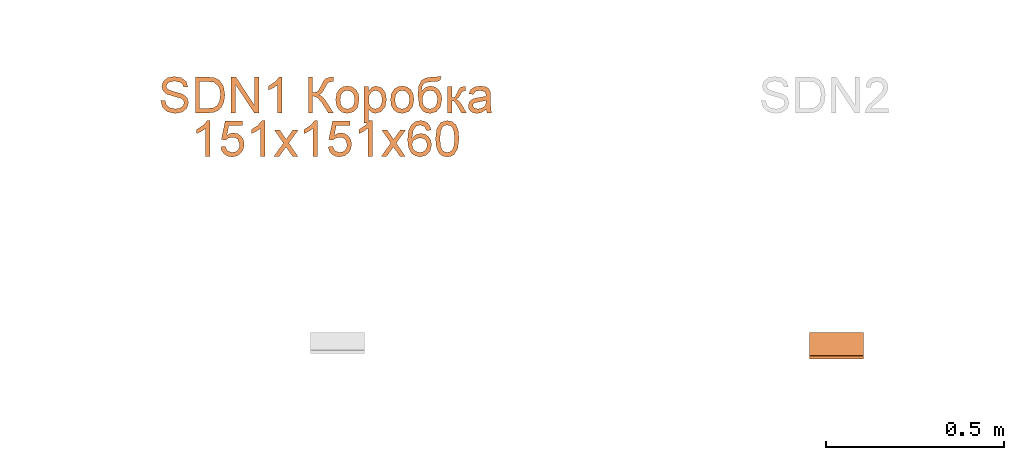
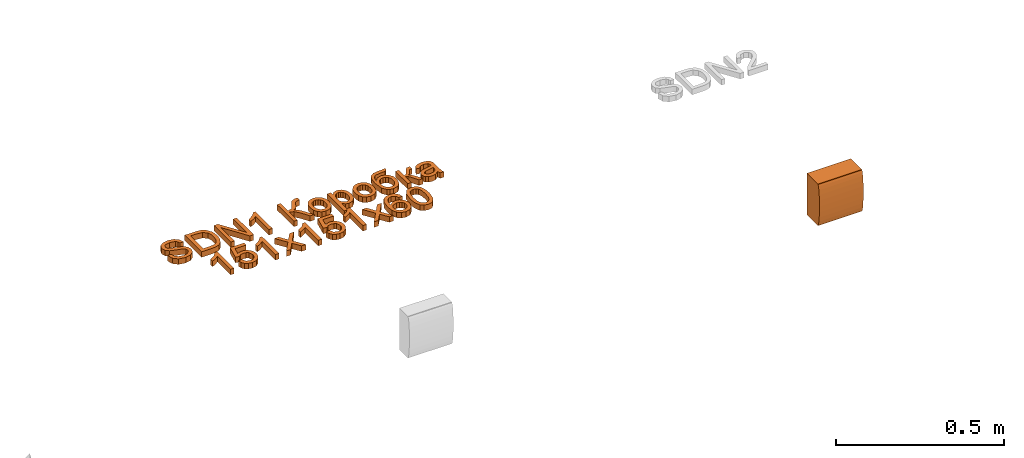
# One storey, part 34 of 71: 2 proxies.
"""IFC2X3 building model written with IfcOpenShell, lengths in millimetres."""

from ifc_helpers import new_model, entity, si_unit, converted_unit, derived_unit, direction, frame, origin, place, context, subcontext, project, spatial, polyline, outline, extrude, source, transform, mapped, material, type_object, type_shapes, element, save


model = new_model("IFC2X3")

# Units and contexts
model_context = context("Model", 3, precision=0.01, world=origin(), true_north=direction((6.12303176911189e-17, 1.0)))
body_context = subcontext(model_context, "Body", "Model", "MODEL_VIEW")
ifc_project = project(units=[si_unit("LENGTHUNIT", "METRE", prefix="MILLI"), si_unit("AREAUNIT", "SQUARE_METRE"), si_unit("VOLUMEUNIT", "CUBIC_METRE"), converted_unit("PLANEANGLEUNIT", "DEGREE", entity("IfcRatioMeasure", 0.0174532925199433), si_unit("PLANEANGLEUNIT", "RADIAN"), dimensions=[0, 0, 0, 0, 0, 0, 0]), si_unit("MASSUNIT", "GRAM", prefix="KILO"), derived_unit("MASSDENSITYUNIT", [(si_unit("MASSUNIT", "GRAM", prefix="KILO"), 1), (si_unit("LENGTHUNIT", "METRE"), -3)]), si_unit("TIMEUNIT", "SECOND"), si_unit("FREQUENCYUNIT", "HERTZ"), si_unit("THERMODYNAMICTEMPERATUREUNIT", "DEGREE_CELSIUS"), derived_unit("THERMALTRANSMITTANCEUNIT", [(si_unit("MASSUNIT", "GRAM", prefix="KILO"), 1), (si_unit("THERMODYNAMICTEMPERATUREUNIT", "KELVIN"), -1), (si_unit("TIMEUNIT", "SECOND"), -3)]), derived_unit("VOLUMETRICFLOWRATEUNIT", [(si_unit("LENGTHUNIT", "METRE"), 3), (si_unit("TIMEUNIT", "SECOND"), -1)]), si_unit("ELECTRICCURRENTUNIT", "AMPERE"), si_unit("ELECTRICVOLTAGEUNIT", "VOLT"), si_unit("POWERUNIT", "WATT"), si_unit("FORCEUNIT", "NEWTON", prefix="KILO"), si_unit("ILLUMINANCEUNIT", "LUX"), si_unit("LUMINOUSFLUXUNIT", "LUMEN"), si_unit("LUMINOUSINTENSITYUNIT", "CANDELA"), derived_unit("USERDEFINED", [(si_unit("MASSUNIT", "GRAM", prefix="KILO"), -1), (si_unit("LENGTHUNIT", "METRE"), -2), (si_unit("TIMEUNIT", "SECOND"), 3), (si_unit("LUMINOUSFLUXUNIT", "LUMEN"), 1)]), derived_unit("LINEARVELOCITYUNIT", [(si_unit("LENGTHUNIT", "METRE"), 1), (si_unit("TIMEUNIT", "SECOND"), -1)]), si_unit("PRESSUREUNIT", "PASCAL"), derived_unit("USERDEFINED", [(si_unit("LENGTHUNIT", "METRE"), -2), (si_unit("MASSUNIT", "GRAM", prefix="KILO"), 1), (si_unit("TIMEUNIT", "SECOND"), -2)])], contexts=[model_context])

# Site, building, storey
site_placement = place(None, origin())
site = spatial("IfcSite", under=ifc_project, at=site_placement, Name="Default", CompositionType="ELEMENT")
building_placement = place(site_placement, origin())
building = spatial("IfcBuilding", under=site, at=building_placement, Name="Наименование здания", CompositionType="ELEMENT")
storey_placement = place(building_placement, origin())
storey = spatial("IfcBuildingStorey", under=building, at=storey_placement, Name="Этаж 01", CompositionType="ELEMENT", Elevation=0.0)

# Proxies
ifc_material = material(Name="DKC_Пластик_Белый")
building_element_proxy_type = type_object("IfcBuildingElementProxyType", Name="SDN2", PredefinedType="NOTDEFINED", material=ifc_material)
shared_shape = source(origin(), body_context, "Body", "SweptSolid", [
    extrude(outline(polyline([(-32.3690628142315, -68.3253380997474), (-30.7516838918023, -68.3253380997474), (-25.4720067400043, -64.2957019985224), (-17.8448663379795, -55.2104980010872), (-8.48816824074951, -41.8057553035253), (1.84006351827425, -25.1674464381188), (12.3030970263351, -6.64350823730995), (22.0532795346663, 12.265359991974), (30.3007092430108, 30.0272742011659), (36.3772284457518, 45.2032697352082), (39.7905536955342, 56.5638776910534), (40.2641576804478, 63.1887291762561), (39.3770507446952, 64.5411181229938), (-17.8171191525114, 95.4252067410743), (-89.563232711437, -37.4412494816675), (-32.3690628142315, -68.3253380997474)])), frame((-75.5, -61.0177827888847, 0.0), z_axis=(1.0, 0.0, 0.0), x_axis=(0.0, -0.879910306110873, -0.475139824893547)), (0.0, 0.0, 1.0), 151.0),
])
type_shapes(building_element_proxy_type, [shared_shape])
proxy_1_placement = place(storey_placement, frame((7681.62924654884, -18646.77075177, 0.0)))
element("IfcBuildingElementProxy", 1, at=proxy_1_placement, inside=storey, type_object=building_element_proxy_type, material=ifc_material, Name="КНС_КоробкаРаспределительнаяSDN_ILC_DKC:SDN2", ObjectType="SDN2", context=body_context, shape_type="MappedRepresentation", body=[
    mapped(shared_shape, transform((0.0, 0.0, 0.0), scale=1.0)),
])
proxy_2_placement = place(storey_placement, origin())
element("IfcBuildingElementProxy", 2, at=proxy_2_placement, inside=storey, Name="Текст модели:100 мм Arial", ObjectType="Текст модели:100 мм Arial", context=body_context, shape_type="SweptSolid", body=[
    extrude(outline(polyline([(3.84937147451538, -43.6856759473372), (23.7794632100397, -43.6856759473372), (39.8633473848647, -33.4874410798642), (50.0223326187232, -13.0514651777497), (51.4237754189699, 6.2914212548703), (44.3957821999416, 21.7342280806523), (31.1640380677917, 30.1503243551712), (16.4351641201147, 30.2478071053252), (3.33579130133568, 21.3214655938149), (-8.77259240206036, 1.65303808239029), (-21.0985165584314, -16.1698870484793), (-30.5640915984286, -17.6490595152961), (-39.0604828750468, -9.38611377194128), (-38.3252577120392, 9.08738044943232), (-29.2485875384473, 25.1525376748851), (-22.7372528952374, 28.3076438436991), (-14.9001528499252, 28.4884999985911), (-11.4851781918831, 40.5722564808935), (-27.967458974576, 40.0566240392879), (-41.6940563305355, 30.1734123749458), (-50.5424116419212, 12.0303333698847), (-52.3124931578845, -6.81333876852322), (-46.1179774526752, -21.7784801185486), (-33.6250499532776, -29.8328640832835), (-20.6549700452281, -29.8410731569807), (-8.75822652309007, -22.1040211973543), (2.55362049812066, -4.84829175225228), (12.1400228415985, 11.4423584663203), (19.9483911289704, 18.1047913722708), (28.0558775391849, 17.9798595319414), (35.4058203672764, 13.010035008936), (39.1668587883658, 3.14170229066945), (37.8051786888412, -10.1085122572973), (30.7951428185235, -23.7758503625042), (20.4604321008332, -31.1260497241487), (7.26434613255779, -31.6019194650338), (3.84937147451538, -43.6856759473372)])), frame((5825.95427266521, -17980.8706548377, 0.0), z_axis=(0.0, 0.0, 1.0), x_axis=(0.271957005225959, -0.962309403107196, 0.0)), (0.0, 0.0, 1.0), 20.0),
    extrude(outline(polyline([(-52.0379301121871, -47.6672876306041), (-15.7157144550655, -47.6672876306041), (0.434305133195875, -45.9505049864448), (12.4395209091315, -40.9105216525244), (21.612045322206, -31.7993109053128), (28.4791758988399, -17.1698702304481), (31.152451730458, 3.1004277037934), (27.2038516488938, 26.9882319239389), (15.30900047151, 44.1560583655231), (0.544669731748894, 51.3420200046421), (-17.3834461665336, 52.7890225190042), (-52.0379301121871, 52.7890225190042), (-52.0379301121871, -47.6672876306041)]), holes=[polyline([(-39.4808913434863, -35.1102488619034), (-39.4808913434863, 40.2319837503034), (-17.6041753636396, 40.2319837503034), (0.201313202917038, 38.2208955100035), (13.2365985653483, 27.0863337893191), (17.2557093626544, 16.9818416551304), (18.5954129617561, 3.29663143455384), (15.8608234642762, -15.6983422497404), (8.22114069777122, -28.1695418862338), (-1.09853651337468, -33.2953643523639), (-17.2608188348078, -35.1102488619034), (-39.4808913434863, -35.1102488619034)])]), frame((5934.31698002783, -17983.3201357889, 0.0)), (0.0, 0.0, 1.0), 20.0),
    extrude(outline(polyline([(-39.2407461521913, -50.2306076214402), (-26.6837073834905, -50.2306076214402), (-26.6837073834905, 29.3790561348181), (25.8007905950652, -50.2306076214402), (39.2407461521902, -50.2306076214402), (39.2407461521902, 50.2257025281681), (26.6837073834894, 50.2257025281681), (26.6837073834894, -29.3594357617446), (-25.8007905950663, 50.2257025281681), (-39.2407461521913, 50.2257025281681), (-39.2407461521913, -50.2306076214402)])), frame((6021.97610621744, -17980.7568157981, 0.0)), (0.0, 0.0, 1.0), 20.0),
    extrude(outline(polyline([(-63.8793021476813, -16.918484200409), (36.577008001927, -16.918484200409), (36.577008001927, -8.82508030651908), (23.2106288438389, 2.34626961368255), (11.4629304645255, 20.7526321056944), (-0.407395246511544, 20.7526321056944), (5.93243780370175, 7.53340574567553), (14.4059864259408, -4.3614454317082), (-63.8793021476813, -4.3614454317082), (-63.8793021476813, -16.918484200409)])), frame((6108.65319185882, -17967.1081212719, 0.0), z_axis=(0.0, 0.0, 1.0), x_axis=(0.0, 1.0, 0.0)), (0.0, 0.0, 1.0), 20.0),
    extrude(outline(polyline([(-40.1432833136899, -39.8663907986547), (60.3130268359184, -39.8663907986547), (60.3130268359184, -27.3093520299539), (13.2241314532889, -27.3093520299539), (17.234045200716, -14.2250157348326), (32.0106386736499, -1.65571423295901), (60.3130268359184, 16.1988252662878), (60.3130268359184, 30.7669522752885), (26.8112398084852, 9.65052575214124), (14.9777022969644, 0.0917252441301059), (9.3000568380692, -9.60196532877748), (4.1006579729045, -0.932212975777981), (-24.5696121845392, 15.4140103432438), (-27.5862445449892, 25.2241968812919), (-27.4390917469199, 30.7669522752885), (-39.9961305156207, 30.7669522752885), (-40.1432833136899, 22.5263955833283), (-37.3228546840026, 11.3059947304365), (-30.3698849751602, 3.45784549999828), (-16.329055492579, -3.47059874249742), (0.483151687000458, -13.2685225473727), (3.80635237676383, -27.3093520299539), (-40.1432833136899, -27.3093520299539), (-40.1432833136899, -39.8663907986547)])), frame((6239.210669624, -17970.6743965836, 0.0), z_axis=(0.0, 0.0, 1.0), x_axis=(0.0, -1.0, 0.0)), (0.0, 0.0, 1.0), 20.0),
    extrude(outline(polyline([(-2.34029740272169, -31.6984909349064), (14.2731811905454, -31.6984909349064), (27.1869525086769, -26.5873672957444), (35.9909592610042, -17.1811275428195), (40.275144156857, -4.29577920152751), (38.1491713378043, 13.1690451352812), (27.2514955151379, 26.6485362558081), (5.67797919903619, 33.7446283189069), (-10.1280544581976, 33.6081083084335), (-22.8059382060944, 28.3900569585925), (-31.6389568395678, 18.9754531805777), (-35.9103951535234, 6.24927588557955), (-35.5406401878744, -5.9710903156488), (-30.8535887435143, -16.7835237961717), (-19.5870121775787, -26.5692340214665), (-2.34029740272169, -31.6984909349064)]), holes=[polyline([(-0.642949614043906, -19.2566729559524), (-11.6948097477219, -16.2599663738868), (-19.0989004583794, -10.834182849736), (-22.9822632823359, -3.67356758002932), (-23.4719397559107, 4.52763423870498), (-20.7783225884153, 12.2046648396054), (-15.0781786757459, 18.0357050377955), (-6.56600936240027, 21.2863283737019), (4.56368400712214, 21.2221083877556), (15.8675929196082, 18.1905150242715), (23.3961896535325, 12.7474982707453), (27.3267847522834, 5.59272509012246), (27.8366887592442, -2.57413755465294), (25.131722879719, -10.3331599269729), (19.4311586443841, -16.1672368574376), (10.8134498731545, -19.3753979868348), (-0.642949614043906, -19.2566729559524)])]), frame((6307.9761531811, -17992.0732747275, 0.0), z_axis=(0.0, 0.0, 1.0), x_axis=(0.137105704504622, -0.990556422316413, 0.0)), (0.0, 0.0, 1.0), 20.0),
    extrude(outline(polyline([(-28.8983569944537, -61.2335493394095), (-16.3413182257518, -61.2335493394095), (-16.3413182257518, -23.1700255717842), (-8.38280439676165, -31.324743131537), (2.54329085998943, -34.5498419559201), (18.4235303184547, -29.7305878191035), (29.9259740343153, -15.8736993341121), (33.8868368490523, 4.47017499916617), (30.3796951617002, 23.8207679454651), (19.9808974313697, 37.5059781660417), (4.06386977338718, 42.3620205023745), (-7.65930313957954, 38.8916670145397), (-16.3413182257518, 28.4806065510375), (-16.3413182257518, 40.7923906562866), (-28.8983569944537, 40.7923906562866), (-28.8983569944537, -61.2335493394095)]), holes=[polyline([(-16.3413182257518, 3.31747808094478), (-14.8912500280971, 14.7064915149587), (-10.5410454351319, 23.0236902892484), (-4.30851130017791, 28.1096588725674), (2.78854552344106, 29.8049817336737), (9.85801119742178, 28.2108264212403), (15.8606190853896, 23.4283604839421), (19.9625033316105, 15.4453211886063), (21.3297980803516, 4.24944580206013), (19.9287808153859, -7.43080754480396), (15.725729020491, -15.5916564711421), (9.56063991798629, -20.3925165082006), (2.27351073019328, -21.9928031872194), (-4.8971224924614, -20.4476988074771), (-10.9089274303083, -15.8123856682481), (-14.9832205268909, -7.93971097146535), (-16.3413182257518, 3.31747808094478)])]), frame((6385.20562042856, -17998.0072113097, 0.0)), (0.0, 0.0, 1.0), 20.0),
    extrude(outline(polyline([(-2.34029740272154, -31.6984909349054), (14.2731811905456, -31.6984909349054), (27.1869525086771, -26.5873672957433), (35.9909592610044, -17.1811275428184), (40.2751441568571, -4.29577920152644), (38.1491713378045, 13.1690451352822), (27.251495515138, 26.6485362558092), (5.67797919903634, 33.744628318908), (-10.1280544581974, 33.6081083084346), (-22.8059382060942, 28.3900569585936), (-31.6389568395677, 18.9754531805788), (-35.9103951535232, 6.24927588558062), (-35.5406401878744, -5.9710903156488), (-30.8535887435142, -16.7835237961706), (-19.5870121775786, -26.5692340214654), (-2.34029740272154, -31.6984909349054)]), holes=[polyline([(-0.642949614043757, -19.2566729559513), (-11.6948097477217, -16.2599663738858), (-19.0989004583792, -10.8341828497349), (-22.9822632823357, -3.67356758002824), (-23.4719397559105, 4.52763423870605), (-20.7783225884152, 12.2046648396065), (-15.0781786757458, 18.0357050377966), (-6.56600936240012, 21.286328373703), (4.56368400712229, 21.2221083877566), (15.8675929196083, 18.1905150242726), (23.3961896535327, 12.7474982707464), (27.3267847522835, 5.59272509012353), (27.8366887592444, -2.57413755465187), (25.1317228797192, -10.3331599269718), (19.4311586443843, -16.1672368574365), (10.8134498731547, -19.3753979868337), (-0.642949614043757, -19.2566729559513)])]), frame((6461.79987809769, -17992.0732747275, 0.0), z_axis=(0.0, 0.0, 1.0), x_axis=(0.137105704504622, -0.990556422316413, 0.0)), (0.0, 0.0, 1.0), 20.0),
    extrude(outline(polyline([(-36.7383450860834, 23.9127601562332), (-46.1456290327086, 18.2359508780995), (-38.3115960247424, 11.5197207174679), (-30.9999887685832, 11.7926999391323), (-17.4285045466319, 19.0657497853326), (1.79987667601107, 27.2889773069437), (13.3931666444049, 23.4571310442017), (24.1696911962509, 10.796724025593), (8.64788990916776, 15.4661530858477), (-5.41814287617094, 11.6471592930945), (-15.2919624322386, 2.7204853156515), (-20.4292847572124, -9.28462675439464), (-20.266411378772, -23.1543425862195), (-14.2396438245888, -37.6748278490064), (0.903100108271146, -53.7731800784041), (17.0767569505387, -59.2380141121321), (34.3195220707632, -54.2038283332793), (43.2583696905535, -47.0802563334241), (48.236574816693, -38.8878475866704), (49.6974118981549, -20.3037190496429), (36.312560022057, 9.18708792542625), (21.8249752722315, 28.5846782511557), (8.11478393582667, 37.47320211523), (-6.10751497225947, 37.6453980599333), (-22.131422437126, 30.894004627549), (-34.2462330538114, 23.9127601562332), (-36.7383450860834, 23.9127601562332)]), holes=[polyline([(-3.69120535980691, -30.8510713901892), (-7.63080419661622, -21.6880748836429), (-8.22269664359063, -12.8036692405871), (-5.29038751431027, -4.96502020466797), (1.34261837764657, 1.06070648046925), (10.1363779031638, 4.22965492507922), (18.7950054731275, 3.04179706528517), (26.8190649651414, -2.10244930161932), (33.7091202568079, -10.8026663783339), (37.8946357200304, -20.7410650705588), (37.9571331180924, -29.8518371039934), (34.5102726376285, -37.5498330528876), (28.1677144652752, -43.2499034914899), (20.0017347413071, -46.0113743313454), (11.4205840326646, -44.6908282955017), (3.24826858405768, -39.5501118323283), (-3.69120535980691, -30.8510713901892)])]), frame((6542.82874097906, -17968.4167094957, 0.0), z_axis=(0.0, 0.0, -1.0), x_axis=(-0.856187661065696, -0.516664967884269, 0.0)), (0.0, 0.0, -1.0), 20.0),
    extrude(outline(polyline([(-30.32957123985, -29.5353037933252), (43.4430315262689, -29.5353037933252), (43.4430315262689, -16.9782650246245), (8.91117491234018, -16.9782650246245), (11.2288314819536, -10.2337617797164), (20.8060260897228, -3.61188586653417), (43.4430315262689, 9.55828956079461), (43.4430315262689, 23.8321109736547), (20.3155167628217, 10.3921554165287), (10.0209522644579, 2.61758258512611), (5.13425309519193, -5.30414304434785), (0.756457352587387, 1.79597946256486), (-8.18307513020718, 6.86048826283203), (-16.448157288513, 11.1769703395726), (-17.7725324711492, 17.3083369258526), (-17.6989560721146, 20.6928512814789), (-30.32957123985, 20.6928512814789), (-30.32957123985, 18.2893555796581), (-29.3730780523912, 9.10456843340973), (-25.6819953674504, 4.05232236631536), (-14.3389671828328, -1.67437402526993), (-1.19331722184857, -8.56603006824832), (1.06302568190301, -16.9782650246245), (-30.32957123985, -16.9782650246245), (-30.32957123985, -29.5353037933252)])), frame((6619.71741429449, -17987.5443918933, 0.0), z_axis=(0.0, 0.0, 1.0), x_axis=(0.0, -1.0, 0.0)), (0.0, 0.0, 1.0), 20.0),
    extrude(outline(polyline([(32.050823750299, 7.8826653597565), (41.978034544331, 7.8826653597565), (45.948918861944, 19.7953183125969), (35.1414436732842, 20.7608946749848), (14.2438893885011, 27.0545912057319), (-0.577126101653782, 31.9949297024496), (-11.1945882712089, 34.8877809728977), (-20.4974705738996, 33.929960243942), (-28.5323068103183, 27.547073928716), (-35.4619652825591, 13.8157249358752), (-38.3044049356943, -2.69989645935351), (-34.9462156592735, -15.3493345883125), (-25.0306383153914, -24.3807697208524), (-19.5706723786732, -12.9644773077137), (-25.7868125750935, -4.50695904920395), (-24.061184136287, 8.30922519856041), (-16.2279943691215, 20.3304570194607), (-6.33956174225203, 20.6794605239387), (-3.71040200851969, 19.7255176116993), (-6.50243004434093, -2.30048133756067), (-8.14662433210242, -13.2049019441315), (-7.01817966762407, -22.8490321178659), (-2.17478658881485, -31.1204151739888), (6.48825595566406, -36.5416029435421), (15.001033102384, -37.7020395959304), (22.949587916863, -35.320090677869), (29.6378522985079, -29.3899394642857), (34.3697581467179, -19.9057692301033), (36.2737661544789, -6.36055543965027), (32.050823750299, 7.8826653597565)]), holes=[polyline([(8.22551784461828, 15.8244339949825), (11.5759514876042, 14.6300664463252), (20.161437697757, 9.674216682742), (24.4696920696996, -0.396473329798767), (23.3024692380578, -13.3987927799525), (17.2491973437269, -22.9498553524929), (9.62153186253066, -24.3497471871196), (5.58084684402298, -21.1932043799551), (3.98706417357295, -15.5044472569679), (5.47226797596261, -4.61166010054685), (8.22551784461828, 15.8244339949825)])]), frame((6680.87305651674, -17993.6562808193, 0.0), z_axis=(0.0, 0.0, 1.0), x_axis=(0.316227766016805, -0.948683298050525, 0.0)), (0.0, 0.0, 1.0), 20.0),
    extrude(outline(polyline([(-63.8793021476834, -16.918484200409), (36.5770080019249, -16.918484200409), (36.5770080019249, -8.82508030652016), (23.2106288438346, 2.34626961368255), (11.4629304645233, 20.7526321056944), (-0.40739524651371, 20.7526321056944), (5.93243780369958, 7.53340574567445), (14.4059864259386, -4.3614454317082), (-63.8793021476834, -4.3614454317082), (-63.8793021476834, -16.918484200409)])), frame((5906.95575663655, -18089.0829391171, 0.0), z_axis=(0.0, 0.0, 1.0), x_axis=(0.0, 1.0, 0.0)), (0.0, 0.0, 1.0), 20.0),
    extrude(outline(polyline([(3.8143956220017, -37.2548959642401), (15.7323946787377, -37.2548959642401), (26.1588137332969, -33.0579698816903), (34.2921694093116, -25.0537205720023), (39.330978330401, -13.6317508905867), (40.2219288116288, 1.43409098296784), (34.3991305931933, 14.6815107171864), (25.5350217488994, 23.148189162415), (13.9054384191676, 28.2770976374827), (0.912111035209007, 29.4702838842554), (-10.7159258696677, 25.7768606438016), (-19.7427074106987, 18.098998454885), (-24.93226870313, 7.33886785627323), (-25.5937300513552, -2.21124798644), (-22.6370240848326, -12.2793380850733), (-47.9924930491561, 0.0204883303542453), (-38.0977082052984, 37.2324069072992), (-50.2330599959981, 40.4592412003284), (-62.7370428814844, -6.56524698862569), (-15.5021967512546, -30.4943712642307), (-10.7584434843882, -18.7623737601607), (-14.4216298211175, -10.4922324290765), (-13.6981616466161, 0.722667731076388), (-9.98738154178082, 9.35727561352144), (-4.32553373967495, 14.6878856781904), (11.4370636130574, 15.9400687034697), (19.7481682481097, 12.2772427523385), (25.4355726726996, 6.40632241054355), (28.0665145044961, -1.27212018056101), (27.2082313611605, -10.3575128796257), (19.6530635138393, -21.9256319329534), (5.52431094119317, -24.7161898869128), (3.8143956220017, -37.2548959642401)])), frame((5988.7208192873, -18113.0186872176, 0.0), z_axis=(0.0, 0.0, 1.0), x_axis=(0.256974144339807, -0.966418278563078, 0.0)), (0.0, 0.0, 1.0), 20.0),
    extrude(outline(polyline([(-63.8793021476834, -16.918484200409), (36.5770080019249, -16.918484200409), (36.5770080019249, -8.82508030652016), (23.2106288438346, 2.34626961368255), (11.4629304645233, 20.7526321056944), (-0.40739524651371, 20.7526321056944), (5.93243780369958, 7.53340574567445), (14.4059864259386, -4.3614454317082), (-63.8793021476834, -4.3614454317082), (-63.8793021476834, -16.918484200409)])), frame((6060.77948155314, -18089.0829391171, 0.0), z_axis=(0.0, 0.0, 1.0), x_axis=(0.0, 1.0, 0.0)), (0.0, 0.0, 1.0), 20.0),
    extrude(outline(polyline([(-34.5302215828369, -38.4265006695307), (-19.4225343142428, -38.4265006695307), (-0.341721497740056, -12.0616243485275), (2.47870713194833, -16.1328517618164), (17.8561745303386, -38.4265006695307), (32.9638617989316, -38.4265006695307), (7.40832586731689, -1.34399555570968), (33.944880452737, 35.3461020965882), (18.837193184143, 35.3461020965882), (4.95577923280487, 16.1671874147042), (0.0261604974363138, 9.34910777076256), (-5.66374769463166, 17.687766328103), (-17.8529044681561, 35.3461020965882), (-32.9605917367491, 35.3461020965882), (-7.69936140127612, -1.34399555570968), (-34.5302215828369, -38.4265006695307)])), frame((6137.34226487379, -18114.5357405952, 0.0)), (0.0, 0.0, 1.0), 20.0),
    extrude(outline(polyline([(-63.8793021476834, -16.9184842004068), (36.5770080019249, -16.9184842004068), (36.5770080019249, -8.825080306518), (23.2106288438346, 2.34626961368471), (11.4629304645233, 20.7526321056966), (-0.40739524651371, 20.7526321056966), (5.93243780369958, 7.53340574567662), (14.4059864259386, -4.36144543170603), (-63.8793021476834, -4.36144543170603), (-63.8793021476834, -16.9184842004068)])), frame((6208.32468708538, -18089.0829391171, 0.0), z_axis=(0.0, 0.0, 1.0), x_axis=(0.0, 1.0, 0.0)), (0.0, 0.0, 1.0), 20.0),
    extrude(outline(polyline([(3.81439562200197, -37.2548959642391), (15.732394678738, -37.2548959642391), (26.1588137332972, -33.0579698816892), (34.2921694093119, -25.0537205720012), (39.3309783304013, -13.6317508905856), (40.2219288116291, 1.43409098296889), (34.3991305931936, 14.6815107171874), (25.5350217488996, 23.1481891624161), (13.9054384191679, 28.2770976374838), (0.912111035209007, 29.4702838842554), (-10.7159258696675, 25.7768606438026), (-19.7427074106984, 18.098998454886), (-24.9322687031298, 7.33886785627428), (-25.5937300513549, -2.21124798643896), (-22.6370240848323, -12.2793380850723), (-47.9924930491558, 0.0204883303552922), (-38.0977082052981, 37.2324069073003), (-50.2330599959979, 40.4592412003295), (-62.7370428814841, -6.56524698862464), (-15.5021967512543, -30.4943712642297), (-10.7584434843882, -18.7623737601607), (-14.4216298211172, -10.4922324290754), (-13.6981616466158, 0.722667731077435), (-9.98738154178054, 9.35727561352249), (-4.32553373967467, 14.6878856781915), (11.4370636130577, 15.9400687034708), (19.74816824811, 12.2772427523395), (25.4355726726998, 6.4063224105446), (28.0665145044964, -1.27212018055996), (27.2082313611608, -10.3575128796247), (19.6530635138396, -21.9256319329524), (5.52431094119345, -24.7161898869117), (3.81439562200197, -37.2548959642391)])), frame((6290.08974973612, -18113.0186872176, 0.0), z_axis=(0.0, 0.0, 1.0), x_axis=(0.256974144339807, -0.966418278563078, 0.0)), (0.0, 0.0, 1.0), 20.0),
    extrude(outline(polyline([(-63.8793021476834, -16.9184842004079), (36.5770080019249, -16.9184842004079), (36.5770080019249, -8.82508030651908), (23.2106288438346, 2.34626961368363), (11.4629304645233, 20.7526321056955), (-0.40739524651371, 20.7526321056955), (5.93243780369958, 7.53340574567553), (14.4059864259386, -4.36144543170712), (-63.8793021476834, -4.36144543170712), (-63.8793021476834, -16.9184842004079)])), frame((6362.14841200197, -18089.0829391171, 0.0), z_axis=(0.0, 0.0, 1.0), x_axis=(0.0, 1.0, 0.0)), (0.0, 0.0, 1.0), 20.0),
    extrude(outline(polyline([(-34.530221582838, -38.4265006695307), (-19.4225343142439, -38.4265006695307), (-0.341721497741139, -12.0616243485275), (2.47870713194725, -16.1328517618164), (17.8561745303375, -38.4265006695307), (32.9638617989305, -38.4265006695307), (7.40832586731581, -1.34399555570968), (33.9448804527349, 35.3461020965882), (18.8371931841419, 35.3461020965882), (4.95577923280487, 16.1671874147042), (0.0261604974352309, 9.34910777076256), (-5.66374769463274, 17.687766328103), (-17.8529044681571, 35.3461020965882), (-32.9605917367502, 35.3461020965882), (-7.6993614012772, -1.34399555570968), (-34.530221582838, -38.4265006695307)])), frame((6438.71119532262, -18114.5357405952, 0.0)), (0.0, 0.0, 1.0), 20.0),
    extrude(outline(polyline([(6.79275401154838, -32.5027761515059), (18.36590456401, -32.5027761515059), (28.1525204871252, -28.8011371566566), (35.6312934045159, -21.717870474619), (40.2809149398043, -11.5729874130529), (41.4130789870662, 3.23667074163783), (36.13912437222, 16.3729018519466), (21.8599739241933, 28.8803269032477), (-1.50836821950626, 38.205459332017), (-23.6059131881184, 41.7609274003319), (-39.9814227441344, 38.5965283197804), (-51.1650797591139, 29.9216784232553), (-57.6870671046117, 16.9457940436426), (-57.9805556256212, -0.0494879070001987), (-49.2081886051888, -14.3141019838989), (-33.6167855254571, -22.9350568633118), (-20.6265742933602, -24.2502330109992), (-8.97800352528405, -20.6254922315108), (0.0919027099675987, -13.0350962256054), (5.34612034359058, -2.45330669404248), (5.85483161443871, 11.6447254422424), (-0.843339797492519, 24.9910631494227), (19.7707676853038, 15.5765036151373), (28.4840991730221, 4.26766164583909), (28.389351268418, -7.46374532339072), (19.9956250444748, -18.1936336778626), (8.63303585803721, -19.9825396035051), (6.79275401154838, -32.5027761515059)]), holes=[polyline([(-18.7586717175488, 29.9549594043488), (-11.6328110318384, 26.3613362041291), (-6.94154076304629, 20.2038317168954), (-5.85783236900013, 4.13761066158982), (-9.4833186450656, -3.95286412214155), (-15.1077394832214, -9.26901644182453), (-22.3091633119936, -11.596909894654), (-30.6656585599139, -10.7226080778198), (-38.6094491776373, -7.06141592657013), (-43.8637090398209, -1.22509865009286), (-46.1835287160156, 6.17768396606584), (-45.3239987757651, 14.5382721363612), (-39.6901171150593, 24.7221971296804), (-30.0168134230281, 30.0585493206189), (-18.7586717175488, 29.9549594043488)])]), frame((6514.36912518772, -18094.4145029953, 0.0), z_axis=(0.0, 0.0, 1.0), x_axis=(-0.267015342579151, 0.96369227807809, 0.0)), (0.0, 0.0, 1.0), 20.0),
    extrude(outline(polyline([(-7.02884310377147, -33.3490673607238), (17.5323805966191, -33.3490673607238), (35.1984171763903, -27.6137612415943), (43.343984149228, -18.4876517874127), (47.05169417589, -5.75150665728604), (46.7162020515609, 4.48638208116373), (43.4465778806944, 13.0955287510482), (27.944430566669, 25.6659118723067), (-0.314338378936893, 32.2325535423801), (-24.0296505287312, 32.3678288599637), (-39.4143020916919, 28.0260881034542), (-49.7293680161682, 18.9002174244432), (-54.4436715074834, 4.63998875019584), (-50.8676582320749, -14.1301059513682), (-35.405854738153, -26.733339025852), (-7.02884310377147, -33.3490673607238)]), holes=[polyline([(-5.77428774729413, -20.8548320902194), (-25.0157644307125, -17.3562860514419), (-36.7257089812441, -11.5717922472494), (-41.0962588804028, -4.77599682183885), (-41.9669219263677, 3.21464792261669), (-39.2244253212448, 11.279129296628), (-32.865406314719, 17.2229259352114), (-20.9698370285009, 20.2947501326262), (-1.61768958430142, 19.7433141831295), (17.8514140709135, 16.2707701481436), (28.7803640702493, 10.7141596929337), (33.5546988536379, 3.61815959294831), (34.5599568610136, -4.47255337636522), (31.9421230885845, -12.192319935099), (25.8471825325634, -18.1754808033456), (14.025067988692, -21.402747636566), (-5.77428774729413, -20.8548320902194)])]), frame((6590.32660637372, -18107.1390643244, 0.0), z_axis=(0.0, 0.0, 1.0), x_axis=(0.101851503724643, -0.994799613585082, 0.0)), (0.0, 0.0, 1.0), 20.0),
])

save(model, "model.ifc")
